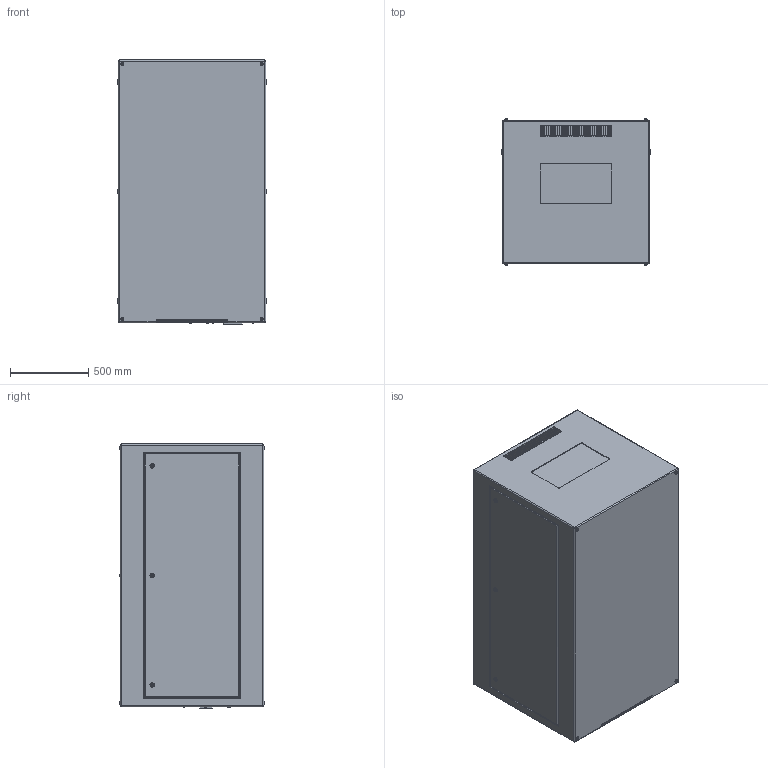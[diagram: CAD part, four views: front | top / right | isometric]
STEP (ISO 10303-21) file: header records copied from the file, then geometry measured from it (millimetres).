
FILE_DESCRIPTION (( 'STEP AP214' ), '1' );
FILE_NAME ('Zen 57.522.L R11.STEP', '2022-09-15T21:18:20', ( '' ), ( '' ), 'SwSTEP 2.0', 'SolidWorks 2020', '' );
FILE_SCHEMA (( 'AUTOMOTIVE_DESIGN' ));
Length unit declared in the file: inch
Products named in the file (1): Zen 57.522.L R11
Bounding box: 952.5 x 929.07 x 1684.02 mm (x, y, z)
Volume: 1438929813.4 mm3; surface area: 8366236.9 mm2
Topology: 1 solids, 7 shells, 1134 faces, 2856 edges, 1758 vertices
Faces by surface type: plane 518, cylinder 490, sphere 74, torus 52
Entity records: 37560 total; most frequent: CARTESIAN_POINT 6275, DIRECTION 5988, ORIENTED_EDGE 5564, EDGE_CURVE 2782, AXIS2_PLACEMENT_3D 2167, VERTEX_POINT 1758, VECTOR 1654, LINE 1654
